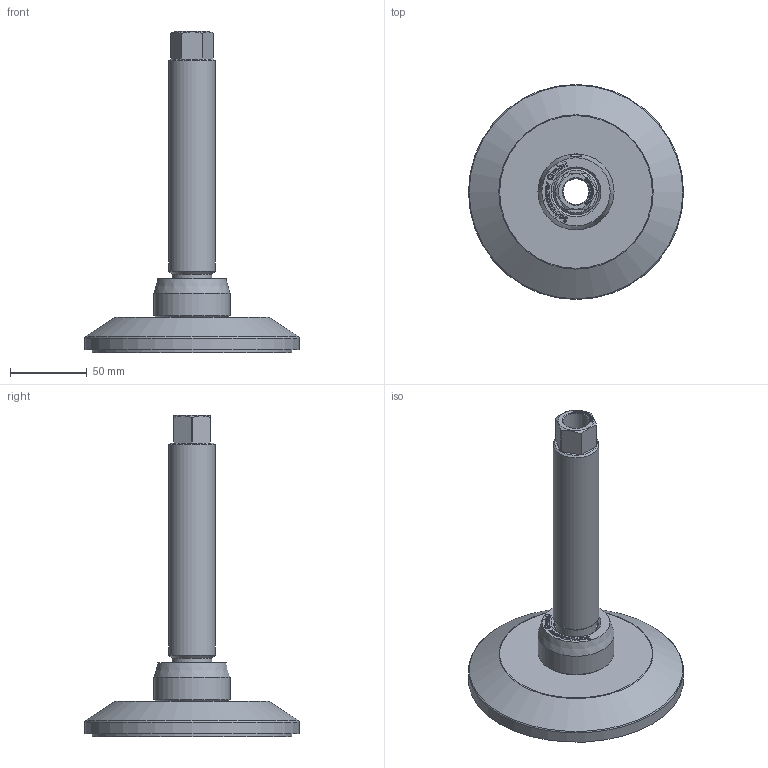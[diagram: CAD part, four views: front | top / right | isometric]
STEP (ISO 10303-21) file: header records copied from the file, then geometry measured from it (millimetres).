
FILE_DESCRIPTION(/* description */ ('JCM 130C - M30 - S6'),/* implementation_level */ '2;1');
FILE_NAME(/* name */ 'C:\Users\Public\Documents\Autodesk\Inventor LT 2016\Workspace\Fussplatte+Blechteller\JCMHD 130C - S6 - HSD180.stp',/* time_stamp */ '2017-01-10T11:17:24+01:00',/* author */ ('T. Rey'),/* organization */ ('Schwaderer GmbH Robert-Bosch-Str. 10 71563 Affalterbach'),/* preprocessor_version */ 'ST-DEVELOPER v16.1',/* originating_system */ 'Autodesk Inventor LT ',/* authorisation */ '');
FILE_SCHEMA (('CONFIG_CONTROL_DESIGN'));
Length unit declared in the file: millimetre
Products named in the file (1): JCM - M30
Bounding box: 140 x 140 x 209.13 mm (x, y, z)
Volume: 398105.5 mm3; surface area: 103229.2 mm2
Topology: 4 solids, 4 shells, 479 faces, 1260 edges, 829 vertices
Faces by surface type: plane 243, bspline 192, cylinder 23, cone 17, torus 3, sphere 1
Full cylindrical faces by diameter (mm): 5 x1, 17 x1, 18.5 x1, 25 x1, 26 x1, 26.5 x1, 27.5 x1, 28.5 x2, 30 x2, 31 x1, 49.5 x1, 130 x2, 140 x1
Entity records: 15857 total; most frequent: CARTESIAN_POINT 5181, ORIENTED_EDGE 2440, DIRECTION 1468, EDGE_CURVE 1220, VERTEX_POINT 824, LINE 750, VECTOR 750, EDGE_LOOP 564
